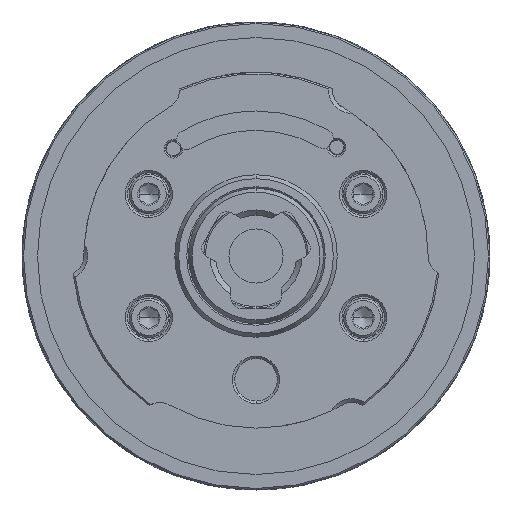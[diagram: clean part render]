
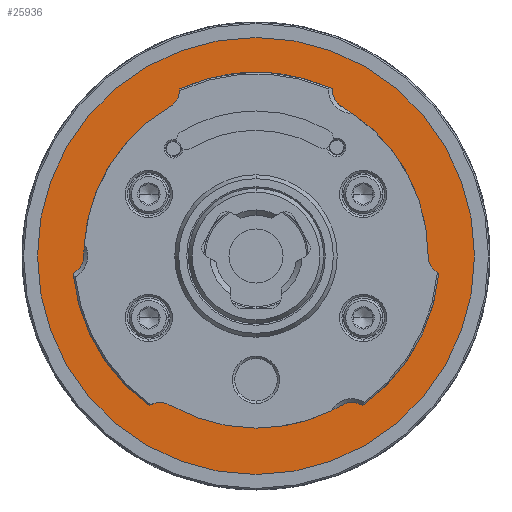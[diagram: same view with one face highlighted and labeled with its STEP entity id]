
A CAD part, front view. The second image highlights one B-rep face of the part: STEP entity #25936.
In plain terms, the highlighted planar face has unit normal (0, -1, 0).
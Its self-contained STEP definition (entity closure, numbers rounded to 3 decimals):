
#209 = CARTESIAN_POINT ( 'NONE',  ( 0., -26.5, 0. ) ) ;
#868 = CARTESIAN_POINT ( 'NONE',  ( 0., -26.5, 44.5 ) ) ;
#1219 = FACE_BOUND ( 'NONE', #9507, .T. ) ;
#1425 = AXIS2_PLACEMENT_3D ( 'NONE', #50532, #4514, #33636 ) ;
#2315 = CARTESIAN_POINT ( 'NONE',  ( 0., -26.5, 0. ) ) ;
#3011 = VERTEX_POINT ( 'NONE', #26537 ) ;
#3527 = EDGE_CURVE ( 'NONE', #8018, #46196, #34628, .T. ) ;
#4514 = DIRECTION ( 'NONE',  ( 0., -1., 0. ) ) ;
#6226 = ORIENTED_EDGE ( 'NONE', *, *, #41375, .T. ) ;
#8018 = VERTEX_POINT ( 'NONE', #868 ) ;
#9507 = EDGE_LOOP ( 'NONE', ( #6226, #42202 ) ) ;
#9693 = DIRECTION ( 'NONE',  ( 0., 0., -1. ) ) ;
#14953 = CIRCLE ( 'NONE', #31490, 56.5 ) ;
#20143 = CARTESIAN_POINT ( 'NONE',  ( 0., -26.5, -44.5 ) ) ;
#25362 = EDGE_CURVE ( 'NONE', #3011, #33441, #47467, .T. ) ;
#25936 = ADVANCED_FACE ( 'NONE', ( #1219, #33930 ), #45899, .T. ) ;
#26537 = CARTESIAN_POINT ( 'NONE',  ( 0., -26.5, 56.5 ) ) ;
#28399 = DIRECTION ( 'NONE',  ( 0., 1., 0. ) ) ;
#28693 = ORIENTED_EDGE ( 'NONE', *, *, #32486, .F. ) ;
#30689 = ORIENTED_EDGE ( 'NONE', *, *, #25362, .F. ) ;
#31490 = AXIS2_PLACEMENT_3D ( 'NONE', #52266, #36992, #41362 ) ;
#31695 = CIRCLE ( 'NONE', #37810, 44.5 ) ;
#32486 = EDGE_CURVE ( 'NONE', #33441, #3011, #14953, .T. ) ;
#33441 = VERTEX_POINT ( 'NONE', #45439 ) ;
#33636 = DIRECTION ( 'NONE',  ( 0., 0., 1. ) ) ;
#33930 = FACE_OUTER_BOUND ( 'NONE', #46656, .T. ) ;
#34628 = CIRCLE ( 'NONE', #51996, 44.5 ) ;
#35270 = DIRECTION ( 'NONE',  ( 0., 1., 0. ) ) ;
#36992 = DIRECTION ( 'NONE',  ( 0., 1., 0. ) ) ;
#37810 = AXIS2_PLACEMENT_3D ( 'NONE', #2315, #35270, #9693 ) ;
#40098 = DIRECTION ( 'NONE',  ( 0., 0., -1. ) ) ;
#41362 = DIRECTION ( 'NONE',  ( 0., 0., -1. ) ) ;
#41375 = EDGE_CURVE ( 'NONE', #46196, #8018, #31695, .T. ) ;
#41634 = DIRECTION ( 'NONE',  ( 0., 0., -1. ) ) ;
#42202 = ORIENTED_EDGE ( 'NONE', *, *, #3527, .T. ) ;
#44983 = CARTESIAN_POINT ( 'NONE',  ( 0., -26.5, 0. ) ) ;
#45439 = CARTESIAN_POINT ( 'NONE',  ( 0., -26.5, -56.5 ) ) ;
#45899 = PLANE ( 'NONE',  #1425 ) ;
#46196 = VERTEX_POINT ( 'NONE', #20143 ) ;
#46656 = EDGE_LOOP ( 'NONE', ( #28693, #30689 ) ) ;
#46776 = DIRECTION ( 'NONE',  ( 0., 1., 0. ) ) ;
#47467 = CIRCLE ( 'NONE', #48353, 56.5 ) ;
#48353 = AXIS2_PLACEMENT_3D ( 'NONE', #44983, #28399, #40098 ) ;
#50532 = CARTESIAN_POINT ( 'NONE',  ( 0., -26.5, -56.5 ) ) ;
#51996 = AXIS2_PLACEMENT_3D ( 'NONE', #209, #46776, #41634 ) ;
#52266 = CARTESIAN_POINT ( 'NONE',  ( 0., -26.5, 0. ) ) ;
